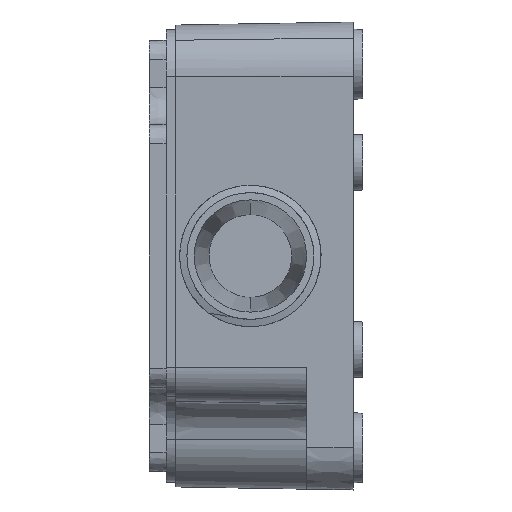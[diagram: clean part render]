
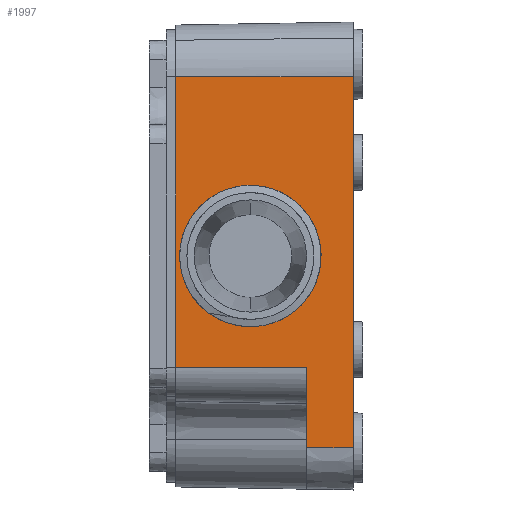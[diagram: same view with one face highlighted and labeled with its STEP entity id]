
A CAD part, left-side view. The second image highlights one B-rep face of the part: STEP entity #1997.
In plain terms, the highlighted planar face has unit normal (-1, 0.018, 0).
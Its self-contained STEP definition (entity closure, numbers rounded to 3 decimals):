
#70 = LINE ( 'NONE', #6809, #4091 ) ;
#278 = VERTEX_POINT ( 'NONE', #4927 ) ;
#316 = DIRECTION ( 'NONE',  ( -0.017, -1., 0. ) ) ;
#398 = EDGE_CURVE ( 'NONE', #3385, #5333, #2886, .T. ) ;
#629 = FACE_BOUND ( 'NONE', #2692, .T. ) ;
#702 = VERTEX_POINT ( 'NONE', #1201 ) ;
#722 = CARTESIAN_POINT ( 'NONE',  ( -39.808, 11., 6.775 ) ) ;
#757 = VECTOR ( 'NONE', #3996, 1000. ) ;
#828 = LINE ( 'NONE', #7450, #1586 ) ;
#1092 = EDGE_CURVE ( 'NONE', #5333, #8344, #5114, .T. ) ;
#1163 = FACE_OUTER_BOUND ( 'NONE', #2072, .T. ) ;
#1201 = CARTESIAN_POINT ( 'NONE',  ( -39.913, 5., -11.9 ) ) ;
#1239 = CARTESIAN_POINT ( 'NONE',  ( -40.045, -2.55, 6.775 ) ) ;
#1378 = ORIENTED_EDGE ( 'NONE', *, *, #5077, .T. ) ;
#1383 = AXIS2_PLACEMENT_3D ( 'NONE', #6542, #5090, #316 ) ;
#1445 = CARTESIAN_POINT ( 'NONE',  ( -40., 0., 19.152 ) ) ;
#1542 = ORIENTED_EDGE ( 'NONE', *, *, #3615, .T. ) ;
#1572 = EDGE_CURVE ( 'NONE', #1773, #5174, #4679, .T. ) ;
#1586 = VECTOR ( 'NONE', #1943, 1000. ) ;
#1773 = VERTEX_POINT ( 'NONE', #3667 ) ;
#1943 = DIRECTION ( 'NONE',  ( 0., 0., -1. ) ) ;
#1997 = ADVANCED_FACE ( 'NONE', ( #629, #1163 ), #5777, .T. ) ;
#2030 = CARTESIAN_POINT ( 'NONE',  ( -39.808, 11., 6.775 ) ) ;
#2072 = EDGE_LOOP ( 'NONE', ( #7226, #8871, #2588, #2995, #1542, #2561 ) ) ;
#2125 = VECTOR ( 'NONE', #7308, 1000. ) ;
#2561 = ORIENTED_EDGE ( 'NONE', *, *, #398, .T. ) ;
#2588 = ORIENTED_EDGE ( 'NONE', *, *, #6971, .T. ) ;
#2692 = EDGE_LOOP ( 'NONE', ( #6053, #1378 ) ) ;
#2886 = LINE ( 'NONE', #3828, #2125 ) ;
#2995 = ORIENTED_EDGE ( 'NONE', *, *, #3484, .T. ) ;
#3005 = LINE ( 'NONE', #3223, #5382 ) ;
#3223 = CARTESIAN_POINT ( 'NONE',  ( -39.913, 5., 20.5 ) ) ;
#3385 = VERTEX_POINT ( 'NONE', #3806 ) ;
#3484 = EDGE_CURVE ( 'NONE', #702, #6952, #3005, .T. ) ;
#3486 = CARTESIAN_POINT ( 'NONE',  ( -39.651, 20., -11.9 ) ) ;
#3615 = EDGE_CURVE ( 'NONE', #6952, #3385, #70, .T. ) ;
#3667 = CARTESIAN_POINT ( 'NONE',  ( -39.808, 11., -6.775 ) ) ;
#3806 = CARTESIAN_POINT ( 'NONE',  ( -40., 0., -20.5 ) ) ;
#3828 = CARTESIAN_POINT ( 'NONE',  ( -40., 0., 20.5 ) ) ;
#3996 = DIRECTION ( 'NONE',  ( 0.017, 1., 0. ) ) ;
#4091 = VECTOR ( 'NONE', #5404, 1000. ) ;
#4138 =( BOUNDED_CURVE ( )  B_SPLINE_CURVE ( 3, ( #6770, #1239, #6253, #5519 ),
 .UNSPECIFIED., .F., .F. ) 
 B_SPLINE_CURVE_WITH_KNOTS ( ( 4, 4 ),
 ( 1.571, 4.712 ),
 .UNSPECIFIED. ) 
 CURVE ( )  GEOMETRIC_REPRESENTATION_ITEM ( )  RATIONAL_B_SPLINE_CURVE ( ( 1., 0.333, 0.333, 1. ) ) 
 REPRESENTATION_ITEM ( '' )  );
#4184 = EDGE_CURVE ( 'NONE', #8344, #278, #828, .T. ) ;
#4679 =( BOUNDED_CURVE ( )  B_SPLINE_CURVE ( 3, ( #7596, #8857, #7477, #2030 ),
 .UNSPECIFIED., .F., .F. ) 
 B_SPLINE_CURVE_WITH_KNOTS ( ( 4, 4 ),
 ( 4.712, 7.854 ),
 .UNSPECIFIED. ) 
 CURVE ( )  GEOMETRIC_REPRESENTATION_ITEM ( )  RATIONAL_B_SPLINE_CURVE ( ( 1., 0.333, 0.333, 1. ) ) 
 REPRESENTATION_ITEM ( '' )  );
#4820 = DIRECTION ( 'NONE',  ( -0.017, -1., 0. ) ) ;
#4927 = CARTESIAN_POINT ( 'NONE',  ( -39.668, 19., -11.9 ) ) ;
#5077 = EDGE_CURVE ( 'NONE', #5174, #1773, #4138, .T. ) ;
#5090 = DIRECTION ( 'NONE',  ( -1., 0.017, 0. ) ) ;
#5114 = LINE ( 'NONE', #7418, #757 ) ;
#5174 = VERTEX_POINT ( 'NONE', #722 ) ;
#5333 = VERTEX_POINT ( 'NONE', #1445 ) ;
#5382 = VECTOR ( 'NONE', #8811, 1000. ) ;
#5404 = DIRECTION ( 'NONE',  ( -0.017, -1., 0. ) ) ;
#5456 = CARTESIAN_POINT ( 'NONE',  ( -39.913, 5., -20.5 ) ) ;
#5519 = CARTESIAN_POINT ( 'NONE',  ( -39.808, 11., -6.775 ) ) ;
#5777 = PLANE ( 'NONE',  #1383 ) ;
#6053 = ORIENTED_EDGE ( 'NONE', *, *, #1572, .T. ) ;
#6253 = CARTESIAN_POINT ( 'NONE',  ( -40.045, -2.55, -6.775 ) ) ;
#6542 = CARTESIAN_POINT ( 'NONE',  ( -39.651, 20., 20.5 ) ) ;
#6770 = CARTESIAN_POINT ( 'NONE',  ( -39.808, 11., 6.775 ) ) ;
#6809 = CARTESIAN_POINT ( 'NONE',  ( -39.651, 20., -20.5 ) ) ;
#6820 = VECTOR ( 'NONE', #4820, 1000. ) ;
#6952 = VERTEX_POINT ( 'NONE', #5456 ) ;
#6971 = EDGE_CURVE ( 'NONE', #278, #702, #7035, .T. ) ;
#7035 = LINE ( 'NONE', #3486, #6820 ) ;
#7226 = ORIENTED_EDGE ( 'NONE', *, *, #1092, .T. ) ;
#7308 = DIRECTION ( 'NONE',  ( 0., 0., 1. ) ) ;
#7418 = CARTESIAN_POINT ( 'NONE',  ( -39.651, 20., 19.152 ) ) ;
#7450 = CARTESIAN_POINT ( 'NONE',  ( -39.668, 19., 20.5 ) ) ;
#7477 = CARTESIAN_POINT ( 'NONE',  ( -39.571, 24.55, 6.775 ) ) ;
#7596 = CARTESIAN_POINT ( 'NONE',  ( -39.808, 11., -6.775 ) ) ;
#8344 = VERTEX_POINT ( 'NONE', #8606 ) ;
#8606 = CARTESIAN_POINT ( 'NONE',  ( -39.668, 19., 19.152 ) ) ;
#8811 = DIRECTION ( 'NONE',  ( 0., 0., -1. ) ) ;
#8857 = CARTESIAN_POINT ( 'NONE',  ( -39.571, 24.55, -6.775 ) ) ;
#8871 = ORIENTED_EDGE ( 'NONE', *, *, #4184, .T. ) ;
